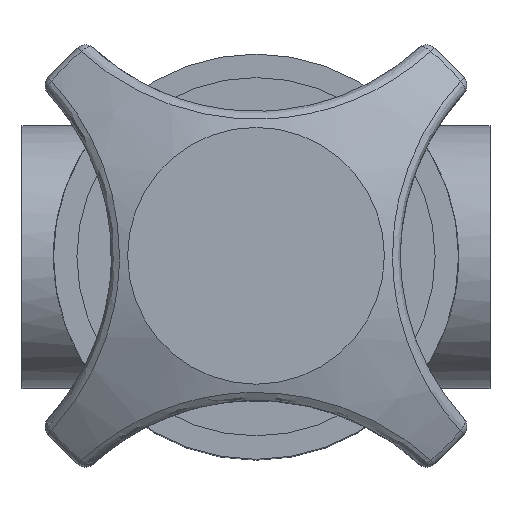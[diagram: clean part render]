
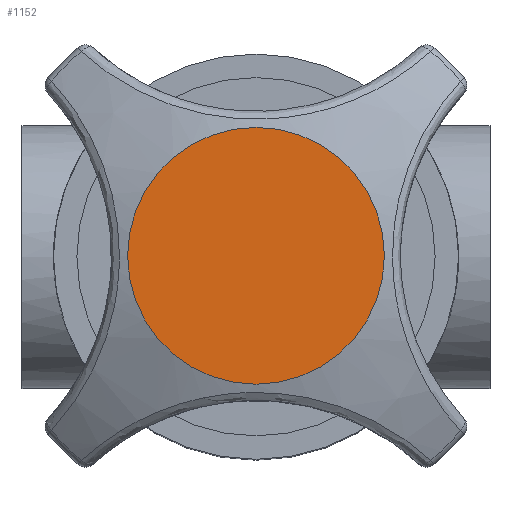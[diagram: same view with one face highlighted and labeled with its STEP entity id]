
A CAD part, top view. The second image highlights one B-rep face of the part: STEP entity #1152.
In plain terms, the highlighted planar face has unit normal (0, 0, 1).
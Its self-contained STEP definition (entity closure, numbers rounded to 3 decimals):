
#261=FACE_OUTER_BOUND('',#339,.T.);
#339=EDGE_LOOP('',(#932));
#436=CIRCLE('',#1306,11.25);
#508=VERTEX_POINT('',#2483);
#652=EDGE_CURVE('',#508,#508,#436,.T.);
#932=ORIENTED_EDGE('',*,*,#652,.F.);
#1007=PLANE('',#1315);
#1152=ADVANCED_FACE('',(#261),#1007,.F.);
#1306=AXIS2_PLACEMENT_3D('',#2484,#1590,#1591);
#1315=AXIS2_PLACEMENT_3D('',#2508,#1614,#1615);
#1590=DIRECTION('center_axis',(0.,0.,
-1.));
#1591=DIRECTION('ref_axis',(-1.,0.,0.));
#1614=DIRECTION('center_axis',(0.,0.,
-1.));
#1615=DIRECTION('ref_axis',(-1.,0.,0.));
#2483=CARTESIAN_POINT('',(-73.75,0.,145.6));
#2484=CARTESIAN_POINT('Origin',(-62.5,0.,
145.6));
#2508=CARTESIAN_POINT('Origin',(-62.5,0.,
145.6));
